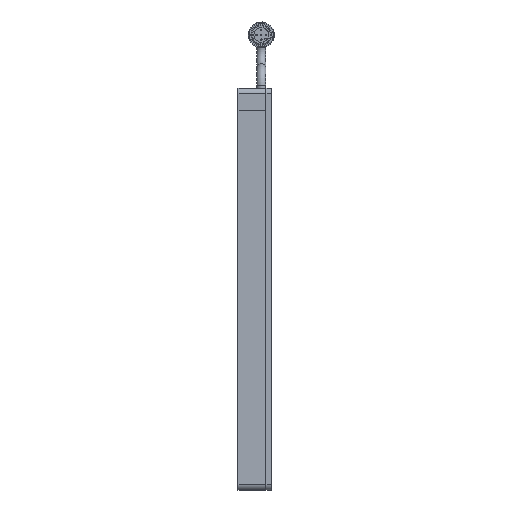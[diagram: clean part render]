
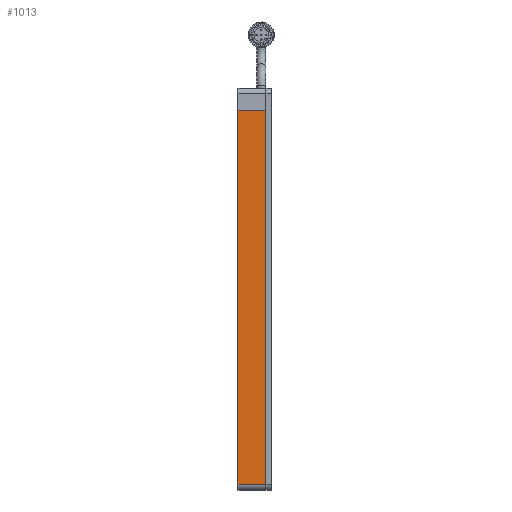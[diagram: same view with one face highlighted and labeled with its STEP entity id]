
A CAD part, left-side view. The second image highlights one B-rep face of the part: STEP entity #1013.
In plain terms, the highlighted planar face has unit normal (-1, 0, 0) as drawn and (0, 0, -1) by its records, which use the part's own axes.
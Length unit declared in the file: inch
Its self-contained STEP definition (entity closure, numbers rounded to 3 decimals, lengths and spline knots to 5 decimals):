
#1013 = ADVANCED_FACE ( 'NONE', ( #8849 ), #6623, .F. ) ;
#1461 = CARTESIAN_POINT ( 'NONE',  ( -4., 0.3125, -0.25 ) ) ;
#1585 = DIRECTION ( 'NONE',  ( 0., -1., 0. ) ) ;
#1762 = CARTESIAN_POINT ( 'NONE',  ( 4.375, -0.3125, -0.25 ) ) ;
#1968 = VERTEX_POINT ( 'NONE', #9684 ) ;
#2081 = LINE ( 'NONE', #2317, #9311 ) ;
#2229 = EDGE_CURVE ( 'NONE', #8211, #8209, #2081, .T. ) ;
#2308 = EDGE_CURVE ( 'NONE', #1968, #8209, #11210, .T. ) ;
#2317 = CARTESIAN_POINT ( 'NONE',  ( -4.5, 0.3125, -0.25 ) ) ;
#2447 = VECTOR ( 'NONE', #2705, 39.37008 ) ;
#2705 = DIRECTION ( 'NONE',  ( 0., 1., 0. ) ) ;
#3290 = ORIENTED_EDGE ( 'NONE', *, *, #2229, .F. ) ;
#4139 = VECTOR ( 'NONE', #1585, 39.37008 ) ;
#5095 = DIRECTION ( 'NONE',  ( 0., 0., 1. ) ) ;
#5166 = CARTESIAN_POINT ( 'NONE',  ( -4., -0.3125, -0.25 ) ) ;
#6045 = EDGE_CURVE ( 'NONE', #7197, #1968, #11239, .T. ) ;
#6623 = PLANE ( 'NONE',  #7008 ) ;
#7008 = AXIS2_PLACEMENT_3D ( 'NONE', #10237, #5095, #15439 ) ;
#7197 = VERTEX_POINT ( 'NONE', #1762 ) ;
#8209 = VERTEX_POINT ( 'NONE', #1461 ) ;
#8211 = VERTEX_POINT ( 'NONE', #10527 ) ;
#8634 = CARTESIAN_POINT ( 'NONE',  ( -4.5, -0.3125, -0.25 ) ) ;
#8783 = DIRECTION ( 'NONE',  ( -1., 0., 0. ) ) ;
#8849 = FACE_OUTER_BOUND ( 'NONE', #12593, .T. ) ;
#9311 = VECTOR ( 'NONE', #10975, 39.37008 ) ;
#9684 = CARTESIAN_POINT ( 'NONE',  ( -4., -0.3125, -0.25 ) ) ;
#10051 = ORIENTED_EDGE ( 'NONE', *, *, #6045, .T. ) ;
#10237 = CARTESIAN_POINT ( 'NONE',  ( -4.5, 0.3125, -0.25 ) ) ;
#10396 = CARTESIAN_POINT ( 'NONE',  ( 4.375, 0.3125, -0.25 ) ) ;
#10527 = CARTESIAN_POINT ( 'NONE',  ( 4.375, 0.3125, -0.25 ) ) ;
#10975 = DIRECTION ( 'NONE',  ( -1., 0., 0. ) ) ;
#11210 = LINE ( 'NONE', #5166, #2447 ) ;
#11237 = ORIENTED_EDGE ( 'NONE', *, *, #12193, .T. ) ;
#11239 = LINE ( 'NONE', #8634, #13829 ) ;
#11721 = LINE ( 'NONE', #10396, #4139 ) ;
#12193 = EDGE_CURVE ( 'NONE', #8211, #7197, #11721, .T. ) ;
#12593 = EDGE_LOOP ( 'NONE', ( #3290, #11237, #10051, #15557 ) ) ;
#13829 = VECTOR ( 'NONE', #8783, 39.37008 ) ;
#15439 = DIRECTION ( 'NONE',  ( 1., 0., 0. ) ) ;
#15557 = ORIENTED_EDGE ( 'NONE', *, *, #2308, .T. ) ;
